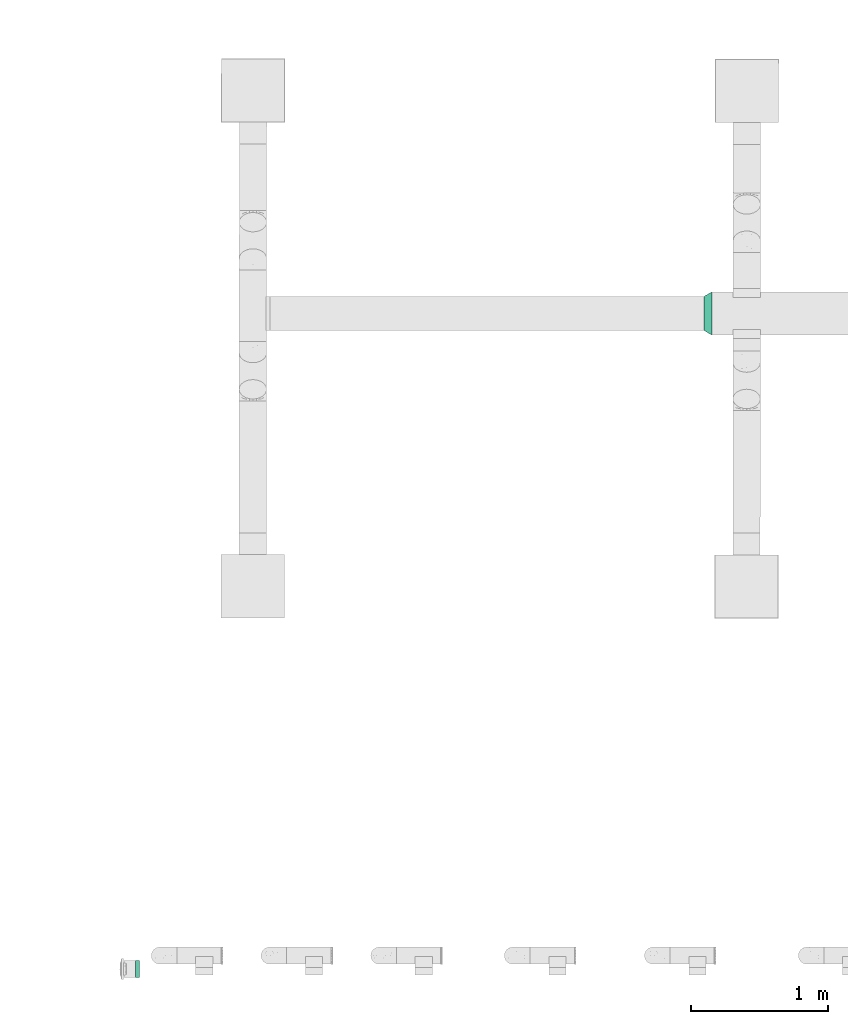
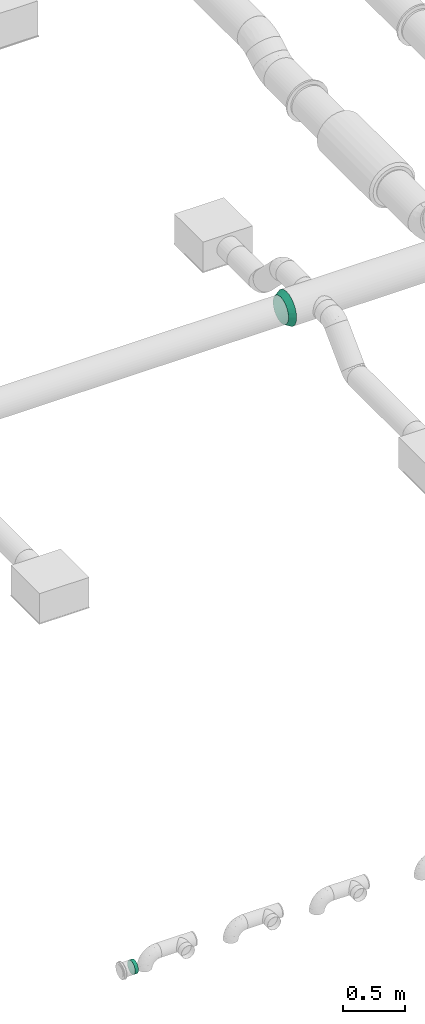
# One storey, part 53 of 63: 2 flow fittings.
"""IFC2X3 building model written with IfcOpenShell, lengths in millimetres."""

from ifc_helpers import new_model, entity, si_unit, converted_unit, derived_unit, direction, frame, origin_with_axes, place, context, subcontext, project, spatial, open_shell, surface_model, source, transform, mapped, type_object, element, save


model = new_model("IFC2X3")

# Units and contexts
model_context = context("Model", 3, precision=0.01, world=frame((0.0, 4.29681676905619e-09, 0.0)), true_north=direction((4.01073788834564e-13, 1.0)))
plan_context = context("Plan", 3, precision=0.01, world=frame((0.0, 4.29681676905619e-09, 0.0)), true_north=direction((4.01073788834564e-13, 1.0)))
body_context = subcontext(model_context, "Body", "Model", "MODEL_VIEW")
ifc_project = project(units=[converted_unit("PLANEANGLEUNIT", "DEGREE", entity("IfcPositiveLengthMeasure", 0.0174532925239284), si_unit("PLANEANGLEUNIT", "RADIAN"), dimensions=[0, 0, 0, 0, 0, 0, 0]), si_unit("AREAUNIT", "SQUARE_METRE"), si_unit("LENGTHUNIT", "METRE", prefix="MILLI"), si_unit("MASSUNIT", "GRAM", prefix="KILO"), si_unit("POWERUNIT", "WATT"), si_unit("PRESSUREUNIT", "PASCAL"), si_unit("FORCEUNIT", "NEWTON", prefix="KILO"), si_unit("ELECTRICVOLTAGEUNIT", "VOLT"), si_unit("ELECTRICCURRENTUNIT", "AMPERE"), si_unit("THERMODYNAMICTEMPERATUREUNIT", "DEGREE_CELSIUS"), si_unit("TIMEUNIT", "SECOND"), si_unit("VOLUMEUNIT", "CUBIC_METRE"), derived_unit("LINEARVELOCITYUNIT", [(si_unit("LENGTHUNIT", "METRE"), 1), (si_unit("TIMEUNIT", "SECOND"), -1)]), derived_unit("VOLUMETRICFLOWRATEUNIT", [(si_unit("VOLUMEUNIT", "CUBIC_METRE"), 1), (si_unit("TIMEUNIT", "SECOND"), -1)]), derived_unit("THERMALTRANSMITTANCEUNIT", [(si_unit("POWERUNIT", "WATT"), 1), (si_unit("THERMODYNAMICTEMPERATUREUNIT", "KELVIN"), -1), (si_unit("AREAUNIT", "SQUARE_METRE"), -1)]), derived_unit("SOUNDPRESSUREUNIT", [(si_unit("PRESSUREUNIT", "PASCAL"), 1)])], contexts=[model_context, plan_context])

# Site, building, storey
site_placement = place(None, frame((0.0, -4.29681676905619e-09, 0.0), z_axis=(0.0, 0.0, 1.0), x_axis=(1.0, 0.0, 0.0)))
site = spatial("IfcSite", under=ifc_project, at=site_placement, CompositionType="ELEMENT")
building_placement = place(site_placement, frame((0.0, 4.29681676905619e-09, 0.0), z_axis=(0.0, 0.0, 1.0), x_axis=(1.0, 0.0, 0.0)))
building = spatial("IfcBuilding", under=site, at=building_placement, Name="mc-building", CompositionType="ELEMENT")
storey_placement = place(building_placement, frame((0.0, 0.0, 210900.0), z_axis=(0.0, 0.0, 1.0), x_axis=(1.0, 0.0, 0.0)))
storey = spatial("IfcBuildingStorey", under=building, at=storey_placement, Name="Nivå F", CompositionType="ELEMENT", Elevation=210900.0)

# Flow fittings
duct_fitting_type_1 = type_object("IfcDuctFittingType", Name="magicirc_tapoutlet_001", PredefinedType="CONNECTOR")
shared_shape_1 = source(origin_with_axes(), body_context, "Body", "SurfaceModel", [
    surface_model("IfcShellBasedSurfaceModel", [(25.0, 0.0, -62.5), (25.0, -31.25, -54.12659), (25.0, -16.17619, -60.37037), (-6.096, -44.19417, -44.19417), (-6.096, -54.12659, -31.25), (-6.096, -62.5, 0.0), (-6.096, -31.25, -54.12659), (25.0, 44.19417, -44.19417), (25.0, 62.5, 0.0), (25.0, 31.25, -54.12659), (25.0, 54.12659, -31.25), (25.0, -62.5, 0.0), (25.0, -60.37037, -16.17619), (25.0, -60.37037, 16.17619), (25.0, 16.17619, -60.37037), (25.0, -44.19417, -44.19417), (25.0, -54.12659, -31.25), (25.0, 60.37037, -16.17619), (25.0, 60.37037, 16.17619), (25.0, 54.12659, 31.25), (25.0, 44.19417, 44.19417), (25.0, 31.25, 54.12659), (25.0, 0.0, 62.5), (25.0, 16.17619, 60.37037), (25.0, -44.19417, 44.19417), (25.0, -54.12659, 31.25), (25.0, -16.17619, 60.37037), (25.0, -31.25, 54.12659), (0.0, 0.0, 62.5), (0.0, 16.17619, 60.37037), (0.0, 31.25, 54.12659), (0.0, 44.19417, 44.19417), (0.0, 54.12659, 31.25), (0.0, 60.37037, 16.17619), (0.0, 62.5, 0.0), (0.0, 60.37037, -16.17619), (0.0, 54.12659, -31.25), (0.0, 44.19417, -44.19417), (0.0, 31.25, -54.12659), (0.0, 16.17619, -60.37037), (0.0, 0.0, -62.5), (0.0, -16.17619, -60.37037), (0.0, -31.25, -54.12659), (0.0, -44.19417, -44.19417), (0.0, -54.12659, -31.25), (0.0, -60.37037, -16.17619), (0.0, -62.5, 0.0), (0.0, -60.37037, 16.17619), (0.0, -54.12659, 31.25), (0.0, -44.19417, 44.19417), (0.0, -31.25, 54.12659), (0.0, -16.17619, 60.37037), (-6.096, 0.0, -62.5), (-6.096, -16.17619, -60.37037), (-6.096, 16.17619, -60.37037), (-6.096, 60.37037, 16.17619), (-6.096, 31.25, -54.12659), (-6.096, 44.19417, -44.19417), (-6.096, 54.12659, -31.25), (-6.096, -60.37037, 16.17619), (-6.096, -60.37037, -16.17619), (-6.096, 60.37037, -16.17619), (-6.096, 54.12659, 31.25), (-6.096, 44.19417, 44.19417), (-6.096, 16.17619, 60.37037), (-6.096, 31.25, 54.12659), (-6.096, -16.17619, 60.37037), (-6.096, -54.12659, 31.25), (-6.096, -44.19417, 44.19417), (-6.096, -31.25, 54.12659), (-6.096, 0.0, 62.5), (-6.096, 62.5, 0.0)], [open_shell([[[0, 1, 2]], [[3, 4, 5]], [[3, 5, 6]], [[7, 8, 9]], [[7, 10, 8]], [[11, 12, 13]], [[14, 8, 0]], [[9, 8, 14]], [[15, 0, 13]], [[0, 15, 1]], [[1, 2, 0]], [[16, 13, 12]], [[13, 16, 15]], [[12, 13, 11]], [[8, 10, 17]], [[18, 19, 0]], [[0, 19, 20]], [[0, 21, 22]], [[20, 21, 0]], [[21, 23, 22]], [[0, 24, 25]], [[25, 13, 0]], [[26, 27, 0]], [[27, 24, 0]], [[26, 0, 22]], [[8, 18, 0]], [[28, 22, 23]], [[29, 23, 21]], [[28, 23, 29]], [[30, 20, 31]], [[30, 29, 21]], [[20, 30, 21]], [[32, 19, 18]], [[33, 18, 8]], [[31, 19, 32]], [[33, 32, 18]], [[34, 33, 8]], [[19, 31, 20]], [[34, 8, 17]], [[35, 17, 10]], [[34, 17, 35]], [[36, 7, 37]], [[36, 35, 10]], [[7, 36, 10]], [[38, 9, 14]], [[39, 14, 0]], [[37, 9, 38]], [[39, 38, 14]], [[40, 39, 0]], [[9, 37, 7]], [[40, 0, 2]], [[41, 2, 1]], [[40, 2, 41]], [[42, 15, 43]], [[42, 41, 1]], [[15, 42, 1]], [[44, 16, 12]], [[45, 12, 11]], [[43, 16, 44]], [[45, 44, 12]], [[46, 45, 11]], [[16, 43, 15]], [[46, 11, 13]], [[47, 13, 25]], [[46, 13, 47]], [[48, 24, 49]], [[48, 47, 25]], [[24, 48, 25]], [[50, 27, 26]], [[51, 26, 22]], [[49, 27, 50]], [[51, 50, 26]], [[28, 51, 22]], [[27, 49, 24]], [[19, 0, 18]], [[19, 20, 0]], [[0, 20, 21]], [[22, 21, 23]], [[13, 0, 25]], [[0, 27, 24]], [[22, 26, 0]], [[18, 0, 8]], [[52, 53, 54]], [[54, 55, 56]], [[57, 55, 58]], [[56, 55, 57]], [[54, 5, 59]], [[53, 6, 5]], [[60, 5, 4]], [[5, 54, 53]], [[61, 58, 55]], [[55, 54, 62]], [[63, 62, 54]], [[54, 64, 65]], [[54, 65, 63]], [[54, 66, 64]], [[67, 68, 54]], [[54, 59, 67]], [[68, 69, 54]], [[54, 69, 66]], [[66, 70, 64]], [[71, 61, 55]], [[70, 28, 29]], [[64, 29, 30]], [[70, 29, 64]], [[65, 31, 63]], [[65, 64, 30]], [[31, 65, 30]], [[62, 32, 33]], [[55, 33, 34]], [[63, 32, 62]], [[55, 62, 33]], [[71, 55, 34]], [[32, 63, 31]], [[71, 34, 35]], [[61, 35, 36]], [[71, 35, 61]], [[58, 37, 57]], [[58, 61, 36]], [[37, 58, 36]], [[56, 38, 39]], [[54, 39, 40]], [[57, 38, 56]], [[54, 56, 39]], [[52, 54, 40]], [[38, 57, 37]], [[52, 40, 41]], [[53, 41, 42]], [[52, 41, 53]], [[6, 43, 3]], [[6, 53, 42]], [[43, 6, 42]], [[4, 44, 45]], [[60, 45, 46]], [[3, 44, 4]], [[60, 4, 45]], [[5, 60, 46]], [[44, 3, 43]], [[5, 46, 47]], [[59, 47, 48]], [[5, 47, 59]], [[67, 49, 68]], [[67, 59, 48]], [[49, 67, 48]], [[69, 50, 51]], [[66, 51, 28]], [[68, 50, 69]], [[66, 69, 51]], [[70, 66, 28]], [[50, 68, 49]]])]),
])
flow_fitting_1_placement = place(storey_placement, frame((522469.26875, 440795.19231, 2163.0), z_axis=(0.0, 1.0, 0.0), x_axis=(-1.0, 0.0, 0.0)))
element("IfcFlowFitting", 1, at=flow_fitting_1_placement, inside=storey, type_object=duct_fitting_type_1, Name="magicirc_tapoutlet_001", context=body_context, shape_type="MappedRepresentation", body=[
    mapped(shared_shape_1, transform((0.0, 0.0, 0.0), scale=1.0)),
])
duct_fitting_type_2 = type_object("IfcDuctFittingType", Name="magicirc_reduction_001", PredefinedType="TRANSITION")
shared_shape_2 = source(origin_with_axes(), body_context, "Body", "SurfaceModel", [
    surface_model("IfcShellBasedSurfaceModel", [(0.0, -152.13332, 40.764), (0.0, -152.13332, -40.764), (0.0, -157.5, 0.0), (0.0, 157.5, 0.0), (0.0, 152.13332, -40.764), (0.0, 136.39901, -78.75), (0.0, 111.36932, -111.36932), (0.0, -136.39901, -78.75), (0.0, -78.75, -136.39901), (0.0, -111.36932, -111.36932), (0.0, 0.0, -157.5), (0.0, -40.764, -152.13332), (0.0, -78.75, 136.39901), (0.0, -40.764, 152.13332), (0.0, 0.0, 157.5), (0.0, 78.75, -136.39901), (0.0, 40.764, -152.13332), (0.0, 111.36932, 111.36932), (0.0, 40.764, 152.13332), (0.0, 78.75, 136.39901), (0.0, -111.36932, 111.36932), (0.0, -136.39901, 78.75), (0.0, 136.39901, 78.75), (0.0, 152.13332, 40.764), (56.29163, 38.66437, 118.88206), (56.29163, -38.58988, 118.88206), (56.29163, -73.43591, 101.12712), (56.29163, -118.84482, 38.62713), (56.29163, 101.16437, 73.47315), (56.29163, -101.08988, 73.47315), (56.29163, -124.96276, 0.0), (56.29163, 118.91931, 38.62713), (56.29163, 0.03725, 125.0), (56.29163, 73.5104, 101.12712), (56.29163, 125.03724, 0.0), (56.29163, 101.16437, -73.47315), (56.29163, -118.84482, -38.62713), (56.29163, -101.08988, -73.47315), (56.29163, 38.66437, -118.88206), (56.29163, -73.43591, -101.12712), (56.29163, -38.58988, -118.88206), (56.29163, 0.03725, -125.0), (56.29163, 118.91931, -38.62713), (56.29163, 73.5104, -101.12712), (39.10603, -134.89624, 0.0), (39.10603, 134.94799, 0.0)], [open_shell([[[0, 1, 2]], [[3, 4, 5]], [[3, 5, 6]], [[7, 8, 9]], [[8, 10, 11]], [[12, 13, 14]], [[2, 0, 1]], [[15, 16, 5]], [[15, 5, 6]], [[17, 18, 19]], [[20, 0, 21]], [[1, 9, 7]], [[6, 4, 5]], [[6, 15, 16]], [[16, 11, 8]], [[14, 18, 19]], [[14, 19, 17]], [[12, 21, 20]], [[12, 0, 21]], [[16, 10, 11]], [[22, 19, 17]], [[4, 23, 3]], [[11, 16, 10]], [[18, 13, 14]], [[8, 7, 1]], [[17, 22, 23]], [[23, 4, 2]], [[13, 14, 19]], [[19, 22, 13]], [[23, 13, 22]], [[12, 0, 20]], [[12, 13, 23]], [[0, 12, 2]], [[23, 2, 12]], [[2, 4, 6]], [[2, 6, 1]], [[1, 6, 16]], [[16, 8, 1]], [[18, 17, 20]], [[0, 17, 8]], [[18, 12, 13]], [[18, 20, 12]], [[17, 0, 20]], [[17, 23, 8]], [[5, 16, 23]], [[16, 10, 23]], [[1, 0, 8]], [[10, 8, 23]], [[5, 23, 3]], [[17, 23, 14]], [[1, 12, 14]], [[0, 12, 1]], [[14, 23, 1]], [[8, 6, 15]], [[1, 23, 6]], [[8, 15, 16]], [[1, 6, 9]], [[8, 9, 6]], [[6, 23, 3]], [[24, 25, 26]], [[26, 27, 28]], [[27, 26, 29]], [[30, 31, 27]], [[32, 25, 24]], [[26, 33, 24]], [[26, 28, 33]], [[31, 28, 27]], [[30, 34, 31]], [[35, 36, 37]], [[38, 39, 40]], [[37, 39, 35]], [[38, 40, 41]], [[30, 42, 34]], [[39, 43, 35]], [[35, 42, 36]], [[43, 39, 38]], [[42, 30, 36]], [[30, 2, 1]], [[36, 1, 7]], [[1, 36, 30]], [[36, 7, 37]], [[7, 9, 37]], [[41, 11, 10]], [[39, 8, 40]], [[8, 39, 9]], [[40, 8, 11]], [[11, 41, 40]], [[9, 39, 37]], [[41, 10, 16]], [[38, 16, 15]], [[16, 38, 41]], [[38, 15, 43]], [[15, 6, 43]], [[34, 4, 3]], [[35, 5, 42]], [[5, 35, 6]], [[42, 5, 4]], [[4, 34, 42]], [[6, 35, 43]], [[34, 3, 23]], [[31, 23, 22]], [[23, 31, 34]], [[31, 22, 28]], [[22, 17, 28]], [[32, 18, 14]], [[33, 19, 24]], [[19, 33, 17]], [[24, 19, 18]], [[18, 32, 24]], [[17, 33, 28]], [[32, 14, 13]], [[25, 13, 12]], [[13, 25, 32]], [[25, 12, 26]], [[12, 20, 26]], [[30, 0, 2]], [[29, 21, 27]], [[21, 29, 20]], [[27, 21, 0]], [[0, 30, 27]], [[20, 29, 26]], [[24, 32, 38]], [[26, 39, 25]], [[40, 32, 25]], [[37, 26, 29]], [[33, 24, 38]], [[28, 35, 31]], [[43, 28, 33]], [[34, 31, 42]], [[27, 37, 29]], [[36, 37, 27]], [[39, 40, 25]], [[39, 26, 37]], [[41, 32, 40]], [[31, 35, 42]], [[38, 43, 33]], [[28, 43, 35]], [[38, 32, 41]], [[27, 30, 36]], [[21, 27, 29]], [[0, 27, 21]], [[29, 20, 21]], [[12, 26, 25]], [[13, 12, 25]], [[26, 20, 29]], [[19, 24, 33]], [[18, 24, 19]], [[33, 17, 19]], [[22, 28, 31]], [[23, 22, 31]], [[28, 17, 33]], [[5, 42, 35]], [[4, 42, 5]], [[35, 6, 5]], [[15, 43, 38]], [[16, 15, 38]], [[43, 6, 35]], [[8, 40, 39]], [[11, 40, 8]], [[39, 9, 8]], [[7, 37, 36]], [[1, 7, 36]], [[37, 9, 39]], [[32, 25, 29]], [[32, 29, 24]], [[29, 25, 26]], [[42, 24, 29]], [[33, 24, 31]], [[33, 31, 28]], [[42, 31, 24]], [[42, 29, 27]], [[30, 36, 37]], [[39, 42, 27]], [[27, 37, 39]], [[35, 39, 40]], [[42, 39, 35]], [[35, 38, 43]], [[38, 35, 41]], [[40, 41, 35]], [[27, 30, 37]], [[1, 44, 2]], [[30, 44, 7]], [[37, 9, 8]], [[7, 9, 36]], [[39, 8, 11]], [[9, 37, 36]], [[36, 30, 7]], [[11, 40, 39]], [[39, 37, 8]], [[40, 10, 41]], [[40, 11, 10]], [[4, 3, 45]], [[7, 44, 1]], [[6, 35, 15]], [[5, 4, 45]], [[6, 5, 42]], [[34, 5, 45]], [[38, 16, 43]], [[16, 38, 10]], [[16, 15, 43]], [[35, 43, 15]], [[6, 42, 35]], [[5, 34, 42]], [[10, 38, 41]], [[23, 45, 3]], [[34, 45, 22]], [[28, 17, 19]], [[22, 17, 31]], [[33, 19, 18]], [[17, 28, 31]], [[31, 34, 22]], [[18, 24, 33]], [[33, 28, 19]], [[24, 14, 32]], [[24, 18, 14]], [[0, 2, 44]], [[22, 45, 23]], [[20, 29, 12]], [[21, 0, 44]], [[20, 21, 27]], [[30, 21, 44]], [[25, 13, 26]], [[13, 25, 14]], [[13, 12, 26]], [[29, 26, 12]], [[20, 27, 29]], [[21, 30, 27]], [[14, 25, 32]]])]),
])
flow_fitting_2_placement = place(storey_placement, frame((526648.39237, 445574.86108, 4270.0), z_axis=(0.0, 0.0, 1.0), x_axis=(-0.99999999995, -9.9999999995e-06, 0.0)))
element("IfcFlowFitting", 2, at=flow_fitting_2_placement, inside=storey, type_object=duct_fitting_type_2, Name="magicirc_reduction_001", context=body_context, shape_type="MappedRepresentation", body=[
    mapped(shared_shape_2, transform((0.0, 0.0, 0.0), scale=1.0)),
])

save(model, "model.ifc")
